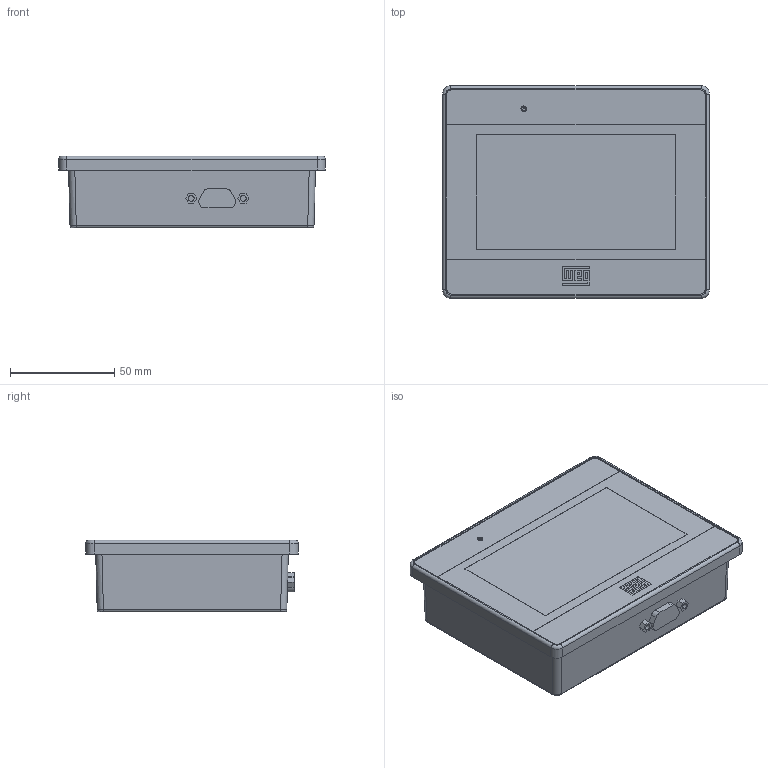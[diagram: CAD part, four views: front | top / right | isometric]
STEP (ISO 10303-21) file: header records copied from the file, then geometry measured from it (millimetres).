
FILE_DESCRIPTION (( 'STEP AP203' ), '1' );
FILE_NAME ('16308985 - MT8051iP1PG.STEP', '2022-07-14T16:48:27', ( '' ), ( '' ), 'SwSTEP 2.0', 'SolidWorks 2018', '' );
FILE_SCHEMA (( 'CONFIG_CONTROL_DESIGN' ));
Length unit declared in the file: millimetre
Products named in the file (1): 16308985 - MT8051iP1PG
Bounding box: 128 x 102 x 34.36 mm (x, y, z)
Volume: 381576.4 mm3; surface area: 40381.5 mm2
Topology: 1 solids, 1 shells, 144 faces, 365 edges, 238 vertices
Faces by surface type: plane 97, bspline 23, cylinder 20, torus 4
Entity records: 5375 total; most frequent: CARTESIAN_POINT 1990, ORIENTED_EDGE 730, DIRECTION 587, EDGE_CURVE 365, LINE 279, VECTOR 279, VERTEX_POINT 238, EDGE_LOOP 159
